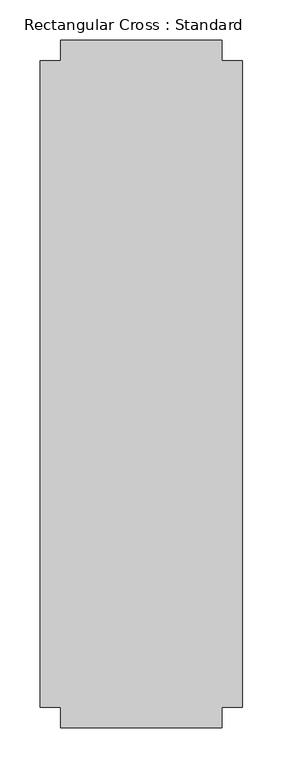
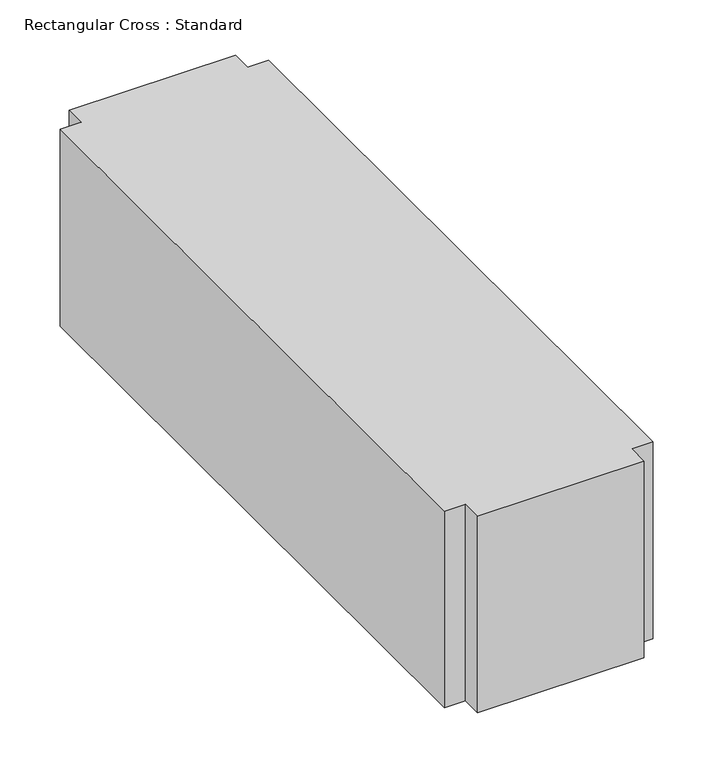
"""IFC4 building model written with IfcOpenShell, lengths in millimetres: duct fitting geometry, Rectangular Cross : Standard."""

from ifc_helpers import new_model, si_unit, frame, origin, place, context, project, spatial, polyline, outline, extrude, source, transform, mapped, element, save


def rectangular_cross_standard_00746d32(model_context):
    return source(origin(), model_context, "Body", "SweptSolid", [
        extrude(outline(polyline([(100.0, -425.4), (-100.0, -425.4), (-100.0, -400.0), (-125.4, -400.0), (-125.4, 400.0), (-100.0, 400.0), (-100.0, 425.4), (100.0, 425.4), (100.0, 400.0), (125.4, 400.0), (125.4, -400.0), (100.0, -400.0), (100.0, -425.4)])), frame((0.0, 0.0, -125.0), z_axis=(0.0, 0.0, 1.0), x_axis=(1.0, 0.0, 0.0)), (0.0, 0.0, 1.0), 250.0),
    ])


if __name__ == "__main__":
    model = new_model("IFC4")
    model_context = context("Model", 3, world=origin())
    ifc_project = project(units=[si_unit("LENGTHUNIT", "METRE", prefix="MILLI")], contexts=[model_context])
    site = spatial("IfcSite", under=ifc_project)
    building = spatial("IfcBuilding", under=site)
    placement = place(None, origin())
    rectangular_cross_standard_shape = rectangular_cross_standard_00746d32(model_context)
    element("IfcDuctFitting", 1, ObjectType="Rectangular Cross : Standard", at=placement, inside=building, context=model_context, shape_type="MappedRepresentation", body=[
        mapped(rectangular_cross_standard_shape, transform((0.0, 0.0, 0.0), x_axis=(1.0, 0.0, 0.0), y_axis=(0.0, 1.0, 0.0), z_axis=(0.0, 0.0, 1.0))),
    ])
    save(model, "model.ifc")
